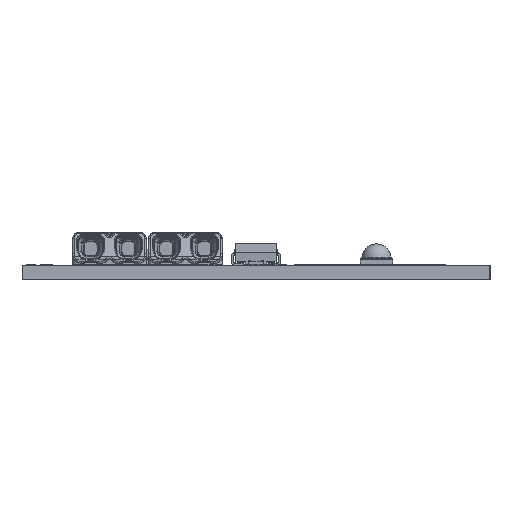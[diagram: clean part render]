
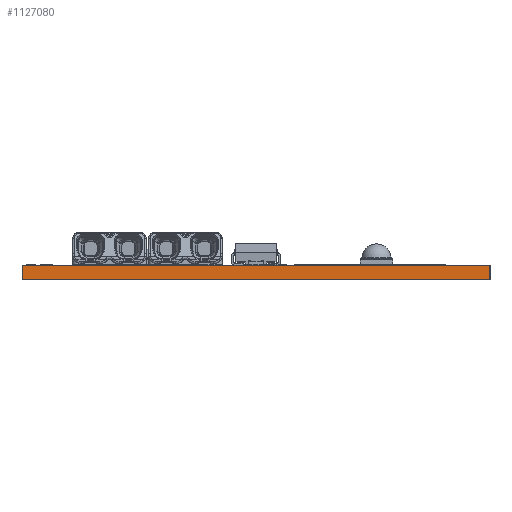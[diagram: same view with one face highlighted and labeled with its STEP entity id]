
A CAD part, left-side view. The second image highlights one B-rep face of the part: STEP entity #1127080.
In plain terms, the highlighted planar face has unit normal (-1, 0, 0).
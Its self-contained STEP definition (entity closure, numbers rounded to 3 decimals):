
#1120810=CARTESIAN_POINT('',(0.,0.,0.));
#1120820=DIRECTION('',(0.,1.,0.));
#1120830=VECTOR('',#1120820,0.039);
#1120840=LINE('',#1120810,#1120830);
#1120850=CARTESIAN_POINT('',(0.,0.,0.));
#1120860=VERTEX_POINT('',#1120850);
#1120870=CARTESIAN_POINT('',(0.,49.5,0.));
#1120880=VERTEX_POINT('',#1120870);
#1120890=EDGE_CURVE('',#1120860,#1120880,#1120840,.T.);
#1123590=CARTESIAN_POINT('',(0.,0.,-1.5));
#1123600=VERTEX_POINT('',#1123590);
#1123750=CARTESIAN_POINT('',(0.,49.5,-1.5)
);
#1123760=VERTEX_POINT('',#1123750);
#1123790=CARTESIAN_POINT('',(0.,0.,-1.5));
#1123800=DIRECTION('',(0.,1.,0.));
#1123810=VECTOR('',#1123800,0.039);
#1123820=LINE('',#1123790,#1123810);
#1123830=EDGE_CURVE('',#1123600,#1123760,#1123820,.T.);
#1126330=CARTESIAN_POINT('',(0.,0.,0.));
#1126340=DIRECTION('',(0.,0.,-1.));
#1126350=VECTOR('',#1126340,1.);
#1126360=LINE('',#1126330,#1126350);
#1126370=EDGE_CURVE('',#1120860,#1123600,#1126360,.T.);
#1126790=CARTESIAN_POINT('',(0.,49.5,0.));
#1126800=DIRECTION('',(0.,0.,-1.));
#1126810=VECTOR('',#1126800,1.);
#1126820=LINE('',#1126790,#1126810);
#1126830=EDGE_CURVE('',#1120880,#1123760,#1126820,.T.);
#1126970=CARTESIAN_POINT('',(0.,0.,0.));
#1126980=DIRECTION('',(1.,0.,0.));
#1126990=DIRECTION('',(0.,-1.,0.));
#1127000=AXIS2_PLACEMENT_3D('',#1126970,#1126980,#1126990);
#1127010=PLANE('',#1127000);
#1127020=ORIENTED_EDGE('',*,*,#1120890,.T.);
#1127030=ORIENTED_EDGE('',*,*,#1126370,.F.);
#1127040=ORIENTED_EDGE('',*,*,#1123830,.F.);
#1127050=ORIENTED_EDGE('',*,*,#1126830,.T.);
#1127060=EDGE_LOOP('',(#1127050,#1127040,#1127030,#1127020));
#1127070=FACE_OUTER_BOUND('',#1127060,.T.);
#1127080=ADVANCED_FACE('',(#1127070),#1127010,.F.);
